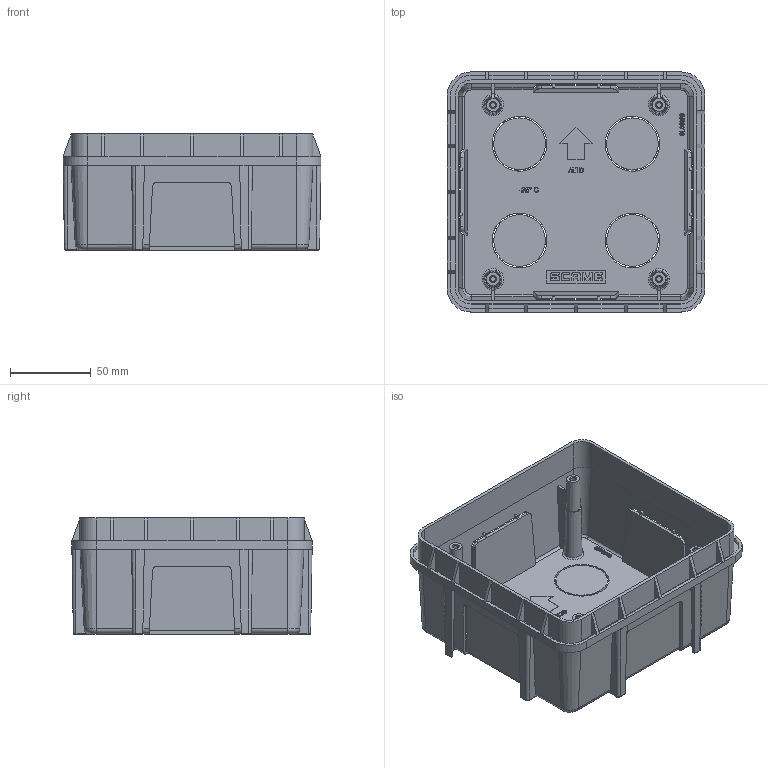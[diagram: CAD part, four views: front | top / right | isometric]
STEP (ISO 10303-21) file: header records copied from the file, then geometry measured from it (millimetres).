
FILE_DESCRIPTION(/* description */ (''),/* implementation_level */ '2;1');
FILE_NAME(/* name */ '4001204.stp',/* time_stamp */ '2019-04-12T08:46:25+02:00',/* author */ (''),/* organization */ (''),/* preprocessor_version */ 'ST-DEVELOPER v16.7',/* originating_system */ 'SIEMENS PLM Software NX 1855',/* authorisation */ '');
FILE_SCHEMA (('AUTOMOTIVE_DESIGN { 1 0 10303 214 3 1 1 1 }'));
Length unit declared in the file: millimetre
Products named in the file (1): BSOM605861F5ubfs
Bounding box: 160 x 149 x 72 mm (x, y, z)
Volume: 149022 mm3; surface area: 148992.4 mm2
Topology: 6 solids, 6 shells, 920 faces, 2567 edges, 1656 vertices
Faces by surface type: plane 532, cylinder 197, extrusion 132, cone 31, torus 16, bspline 12
Full cylindrical faces by diameter (mm): 3.2 x4, 32 x4, 34 x4
Entity records: 33001 total; most frequent: CARTESIAN_POINT 10132, ORIENTED_EDGE 5052, DIRECTION 4141, EDGE_CURVE 2526, VECTOR 1747, VERTEX_POINT 1638, LINE 1615, AXIS2_PLACEMENT_3D 1197
